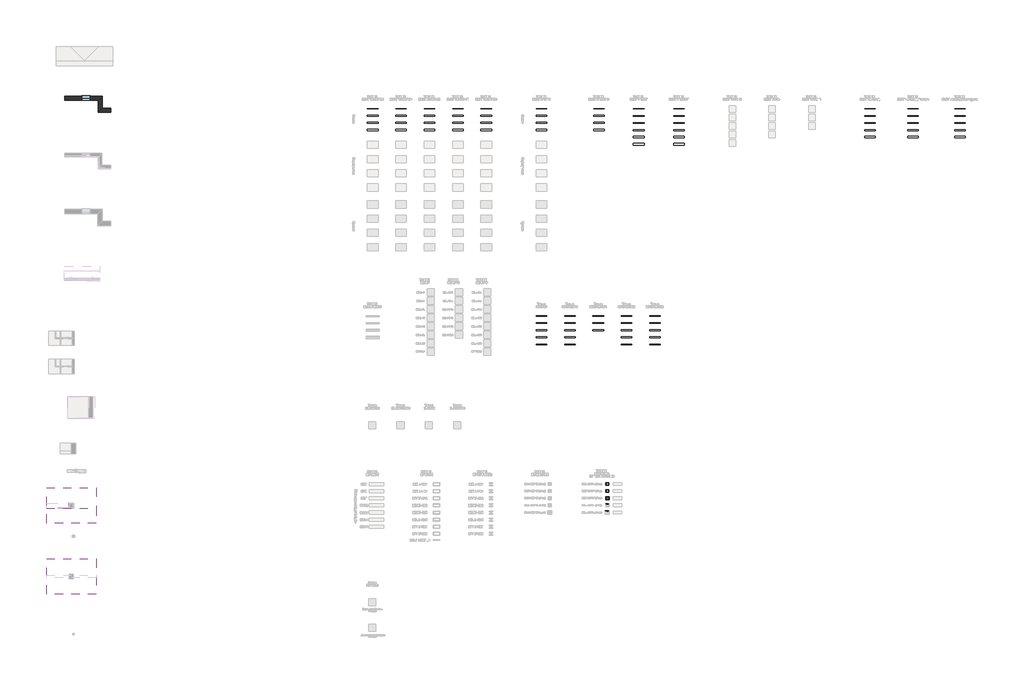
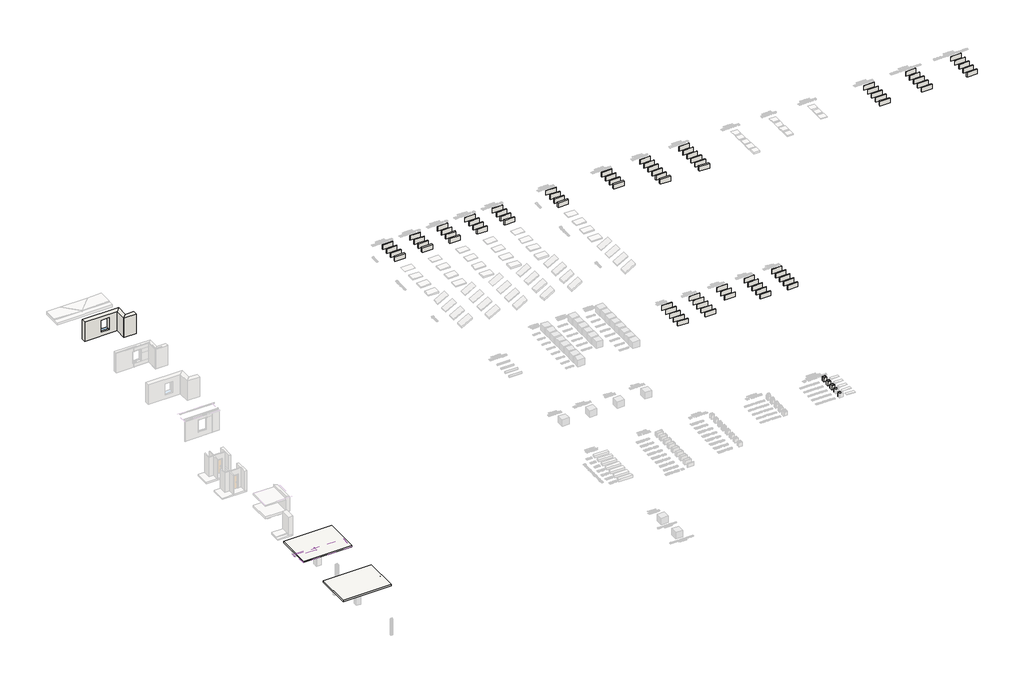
# One storey, part 4 of 35: 95 walls, 2 coverings, 2 slabs, 1 window.
"""IFC4 building model written with IfcOpenShell, lengths in millimetres."""

import ifcopenshell
import ifcopenshell.guid

model = None  # the IFC model being written
_history = None  # IfcOwnerHistory: only IFC2X3 demands one
_inside = {}  # id of a spatial element -> (the spatial element, [elements in it])
_under = {}  # id of a project, library or spatial element -> (it, [spatial elements below it])
_declared = {}  # id of a project -> (the project, [libraries it declares])
_typed = {}  # id of a type object -> (the type object, [elements of that type])
_made_of = {}  # id of a material, layer set ... -> (it, [elements and type objects made of it])


def new_model(schema):
    """Start an empty IFC model of exactly this schema.

    Asked for "IFC4X3", IfcOpenShell would pick the latest addendum, in which some entities
    have other attributes; the version numbers below select the first issue.
    IFC2X3 requires an IfcOwnerHistory on every rooted entity: one is made here for all.
    """
    global model, _history
    if schema == "IFC4X3":
        model = ifcopenshell.file(schema_version=(4, 3, 0, 0))
    else:
        model = ifcopenshell.file(schema=schema)
    _inside.clear()
    _under.clear()
    _declared.clear()
    _typed.clear()
    _made_of.clear()
    _history = None
    if model.schema == "IFC2X3":
        org = make("IfcOrganization", Name="unknown")
        user = make(
            "IfcPersonAndOrganization",
            ThePerson=make("IfcPerson", FamilyName="unknown"),
            TheOrganization=org,
        )
        app = make(
            "IfcApplication",
            ApplicationDeveloper=org,
            Version="unknown",
            ApplicationFullName="unknown",
            ApplicationIdentifier="unknown",
        )
        _history = make(
            "IfcOwnerHistory",
            OwningUser=user,
            OwningApplication=app,
            ChangeAction="ADDED",
            CreationDate=0,
        )
    return model


def make(cls, **values):
    """One entity of the class cls with the attributes given. An attribute that is None is left unset."""
    return model.create_entity(
        cls, **{name: value for name, value in values.items() if value is not None}
    )


def rooted(cls, **values):
    """An entity with a GlobalId (a new one), such as an element, a storey or a relation."""
    return make(cls, GlobalId=ifcopenshell.guid.new(), OwnerHistory=_history, **values)


def si_unit(unit_type, name, prefix=None):
    """IfcSIUnit, for example si_unit("LENGTHUNIT", "METRE", prefix="MILLI")."""
    return make("IfcSIUnit", UnitType=unit_type, Prefix=prefix, Name=name)


def assignment(units):
    """IfcUnitAssignment: the units of a project."""
    return None if units is None else make("IfcUnitAssignment", Units=units)


def point(xyz):
    """IfcCartesianPoint."""
    return None if xyz is None else make("IfcCartesianPoint", Coordinates=xyz)


def direction(xyz):
    """IfcDirection."""
    return None if xyz is None else make("IfcDirection", DirectionRatios=xyz)


def frame(location, z_axis=None, x_axis=None):
    """IfcAxis2Placement3D, a coordinate frame: its origin and axes. An axis left out is left unset."""
    return make(
        "IfcAxis2Placement3D",
        Location=point(location),
        Axis=direction(z_axis),
        RefDirection=direction(x_axis),
    )


def origin():
    """The frame at (0, 0, 0) with its axes left unset."""
    return frame((0.0, 0.0, 0.0))


def origin_with_axes():
    """The frame at (0, 0, 0) with the z axis (0, 0, 1) and the x axis (1, 0, 0) written out."""
    return frame((0.0, 0.0, 0.0), z_axis=(0.0, 0.0, 1.0), x_axis=(1.0, 0.0, 0.0))


def place(relative_to, where):
    """IfcLocalPlacement: puts the frame where relative to a parent placement (None: the world)."""
    return make(
        "IfcLocalPlacement", PlacementRelTo=relative_to, RelativePlacement=where
    )


def context(
    kind, dimensions, precision=None, world=None, true_north=None, identifier=None
):
    """IfcGeometricRepresentationContext, for example the 3D "Model" context."""
    return make(
        "IfcGeometricRepresentationContext",
        ContextIdentifier=identifier,
        ContextType=kind,
        CoordinateSpaceDimension=dimensions,
        Precision=precision,
        WorldCoordinateSystem=world,
        TrueNorth=true_north,
    )


def project(units=None, contexts=None):
    """IfcProject with its units and contexts."""
    return rooted(
        "IfcProject",
        Name="project",
        RepresentationContexts=contexts,
        UnitsInContext=assignment(units),
    )


def spatial(cls, under=None, at=None, **own):
    """A site, building, storey or space (cls), placed at a placement, below another one or the project."""
    s = rooted(cls, ObjectPlacement=at, **own)
    if under is not None:
        _under.setdefault(under.id(), (under, []))[1].append(s)
    return s


def polyline(points):
    """IfcPolyline through the points."""
    return make("IfcPolyline", Points=[point(p) for p in points])


def outline(outer, holes=None, kind="AREA"):
    """IfcArbitraryClosedProfileDef: a profile drawn as a closed curve; with holes, ...WithVoids."""
    if holes is None:
        return make("IfcArbitraryClosedProfileDef", ProfileType=kind, OuterCurve=outer)
    return make(
        "IfcArbitraryProfileDefWithVoids",
        ProfileType=kind,
        OuterCurve=outer,
        InnerCurves=holes,
    )


def extrude(swept, where, along, depth):
    """IfcExtrudedAreaSolid: the profile swept, set in the frame where, extruded along a direction by depth."""
    return make(
        "IfcExtrudedAreaSolid",
        SweptArea=swept,
        Position=where,
        ExtrudedDirection=direction(along),
        Depth=depth,
    )


def faces_of(points, faces, orient=None, outer=None):
    """IfcFace entities. A face is a list of loops; a loop is a list of indices into points, from 0.

    orient and outer hold one flag for each loop. By default every Orientation is true, the
    first loop of a face is its IfcFaceOuterBound and the others are IfcFaceBound.
    """
    made = []
    for i, loops in enumerate(faces):
        bounds = []
        for j, loop in enumerate(loops):
            is_outer = j == 0 if outer is None else outer[i][j]
            bounds.append(
                make(
                    "IfcFaceOuterBound" if is_outer else "IfcFaceBound",
                    Bound=make("IfcPolyLoop", Polygon=[points[k] for k in loop]),
                    Orientation=True if orient is None else orient[i][j],
                )
            )
        made.append(make("IfcFace", Bounds=bounds))
    return made


def faceted_brep(points, faces, orient=None, outer=None, voids=None):
    """IfcFacetedBrep: a solid bounded by flat faces; with voids (closed shells), ...WithVoids."""
    shared = [point(p) for p in points]
    hull = make("IfcClosedShell", CfsFaces=faces_of(shared, faces, orient, outer))
    if voids is None:
        return make("IfcFacetedBrep", Outer=hull)
    return make(
        "IfcFacetedBrepWithVoids",
        Outer=hull,
        Voids=[
            make(cls, CfsFaces=faces_of(shared, fs, o, b)) for cls, fs, o, b in voids
        ],
    )


def shape(context_of_items, identifier, shape_type, items):
    """IfcShapeRepresentation: the items that make up one representation, for example the "Body"."""
    return make(
        "IfcShapeRepresentation",
        ContextOfItems=context_of_items,
        RepresentationIdentifier=identifier,
        RepresentationType=shape_type,
        Items=items,
    )


def source(mapping_origin, context_of_items, identifier, shape_type, items):
    """IfcRepresentationMap: a shape defined once, which mapped items show again and again."""
    return make(
        "IfcRepresentationMap",
        MappingOrigin=mapping_origin,
        MappedRepresentation=shape(context_of_items, identifier, shape_type, items),
    )


def transform(
    local_origin,
    x_axis=None,
    y_axis=None,
    z_axis=None,
    scale=None,
    scale2=None,
    scale3=None,
    uniform=True,
):
    """IfcCartesianTransformationOperator3D, or its non-uniform kind. x_axis, y_axis, z_axis: its Axis1, 2, 3."""
    if uniform:
        return make(
            "IfcCartesianTransformationOperator3D",
            Axis1=direction(x_axis),
            Axis2=direction(y_axis),
            LocalOrigin=point(local_origin),
            Scale=scale,
            Axis3=direction(z_axis),
        )
    return make(
        "IfcCartesianTransformationOperator3DnonUniform",
        Axis1=direction(x_axis),
        Axis2=direction(y_axis),
        LocalOrigin=point(local_origin),
        Scale=scale,
        Axis3=direction(z_axis),
        Scale2=scale2,
        Scale3=scale3,
    )


def mapped(mapping_source, mapping_target):
    """IfcMappedItem: shows the shape of a source again, moved by a transform."""
    return make(
        "IfcMappedItem", MappingSource=mapping_source, MappingTarget=mapping_target
    )


def made_of(thing, what):
    """Note that an element or type object is made of a material, layer set ...; save() writes the relation."""
    if what is not None:
        _made_of.setdefault(what.id(), (what, []))[1].append(thing)
    return thing


def element(
    cls,
    number,
    at=None,
    inside=None,
    cuts=None,
    type_object=None,
    material=None,
    context=None,
    identifier="Body",
    shape_type=None,
    held_by="IfcProductDefinitionShape",
    body=None,
    shapes=None,
    **own,
):
    """One element of the class cls, such as IfcWall. Its Tag is "e" and its number.

    at: its placement. inside: the storey or other place that contains it. cuts: it is an
    opening in that element (IfcRelVoidsElement). A single representation is given by context,
    identifier, shape_type and body (its items); several are given by shapes. held_by: the class
    of the entity that holds the representations. save() writes the other relations.
    """
    e = rooted(cls, Tag="e%d" % number, ObjectPlacement=at, **own)
    if body is not None:
        shapes = [shape(context, identifier, shape_type, body)]
    if shapes is not None:
        e.Representation = make(held_by, Representations=shapes)
    if inside is not None:
        _inside.setdefault(inside.id(), (inside, []))[1].append(e)
    if cuts is not None:
        rooted(
            "IfcRelVoidsElement", RelatingBuildingElement=cuts, RelatedOpeningElement=e
        )
    if type_object is not None:
        _typed.setdefault(type_object.id(), (type_object, []))[1].append(e)
    return made_of(e, material)


def aggregate(whole, parts):
    """IfcRelAggregates: a whole, such as a stair, and the parts it consists of."""
    return rooted("IfcRelAggregates", RelatingObject=whole, RelatedObjects=parts)


def save(model, path):
    """Write the relations noted so far, then the file.

    IfcRelAggregates (storeys below a building ...), IfcRelContainedInSpatialStructure (elements
    in a storey), IfcRelDefinesByType, IfcRelAssociatesMaterial and IfcRelDeclares: one each for
    every whole, place, type object, material and project.
    """
    for whole, parts in _under.values():
        aggregate(whole, parts)
    for where, things in _inside.values():
        rooted(
            "IfcRelContainedInSpatialStructure",
            RelatedElements=things,
            RelatingStructure=where,
        )
    for kind, things in _typed.values():
        rooted("IfcRelDefinesByType", RelatedObjects=things, RelatingType=kind)
    for what, things in _made_of.values():
        rooted("IfcRelAssociatesMaterial", RelatedObjects=things, RelatingMaterial=what)
    for by, libraries in _declared.values():
        rooted("IfcRelDeclares", RelatingContext=by, RelatedDefinitions=libraries)
    model.write(path)


def window_087112bc(model_context):
    return source(origin(), model_context, "Body", "SweptSolid", [
        extrude(outline(polyline([(605.0, 0.0), (605.0, -380.0), (-605.0, -380.0), (-605.0, 0.0), (605.0, 0.0)])), origin_with_axes(), (0.0, 0.0, 1.0), 20.0),
    ])


model = new_model("IFC4")

# Units and contexts
model_context = context("Model", 3, world=origin())
ifc_project = project(units=[si_unit("LENGTHUNIT", "METRE", prefix="MILLI")], contexts=[model_context])

# Site, building, storey
site = spatial("IfcSite", under=ifc_project)
building = spatial("IfcBuilding", under=site)
storey = spatial("IfcBuildingStorey", under=building, Name="Этаж 01", Elevation=0.0)

# Coverings
placement = place(None, origin())
element("IfcCovering", 1, ObjectType="Тизол EURO-ЛИТ 80 (50мм)", at=placement, inside=storey, context=model_context, shape_type="Brep", body=[
    faceted_brep([(-44000.5104743, -52520.4666904, 2600.0), (-40850.5104743, -52520.4666904, 2600.0), (-40850.5104743, -52470.4666904, 2600.0), (-40850.5104743, -51870.4666904, 2600.0), (-40850.5104743, -51820.4666904, 2600.0), (-44000.5104743, -51820.4666904, 2600.0), (-44000.5104743, -51870.4666904, 2600.0), (-44000.5104743, -52470.4666904, 2600.0), (-44000.5104743, -52520.4666904, 2550.0), (-44000.5104743, -51820.4666904, 2550.0), (-40850.5104743, -51820.4666904, 2550.0), (-40850.5104743, -52520.4666904, 2550.0)], [[[0, 1, 2, 3, 4, 5, 6, 7]], [[8, 9, 10, 11]], [[1, 0, 8, 11]], [[4, 3, 2, 1, 11, 10]], [[5, 4, 10, 9]], [[0, 7, 6, 5, 9, 8]]]),
    faceted_brep([(-37000.5104743, -52520.4666904, 2600.0), (-37000.5104743, -52470.4666904, 2600.0), (-37000.5104743, -51870.4666904, 2600.0), (-37000.5104743, -51820.4666904, 2600.0), (-40150.5104743, -51820.4666904, 2600.0), (-40150.5104743, -51870.4666904, 2600.0), (-40150.5104743, -52470.4666904, 2600.0), (-40150.5104743, -52520.4666904, 2600.0), (-37000.5104743, -52520.4666904, 2550.0), (-40150.5104743, -52520.4666904, 2550.0), (-40150.5104743, -51820.4666904, 2550.0), (-37000.5104743, -51820.4666904, 2550.0)], [[[0, 1, 2, 3, 4, 5, 6, 7]], [[8, 9, 10, 11]], [[3, 2, 1, 0, 8, 11]], [[4, 3, 11, 10]], [[7, 6, 5, 4, 10, 9]], [[0, 7, 9, 8]]]),
])
element("IfcCovering", 2, ObjectType="Тизол EURO-ЛИТ 80 (50мм)", at=placement, inside=storey, context=model_context, shape_type="SweptSolid", body=[
    extrude(outline(polyline([(-44000.5104743, -52520.4666904), (-37000.5104743, -52520.4666904), (-37000.5104743, -54670.4666904), (-44000.5104743, -54670.4666904), (-44000.5104743, -52520.4666904)])), frame((0.0, 0.0, 2950.0), z_axis=(0.0, 0.0, 1.0), x_axis=(1.0, 0.0, 0.0)), (0.0, 0.0, 1.0), 50.0),
    extrude(outline(polyline([(-37000.5104743, -51820.4666904), (-44000.5104743, -51820.4666904), (-44000.5104743, -49670.4666904), (-37000.5104743, -49670.4666904), (-37000.5104743, -51820.4666904)])), frame((0.0, 0.0, 2950.0), z_axis=(0.0, 0.0, 1.0), x_axis=(1.0, 0.0, 0.0)), (0.0, 0.0, 1.0), 50.0),
])

# Slabs
element("IfcSlab", 3, ObjectType="ADSK_Перекрытие_Плита_Бетон_220", at=placement, inside=storey, context=model_context, shape_type="SweptSolid", body=[
    extrude(outline(polyline([(-37000.5104743, -49670.4666904), (-37000.5104743, -54670.4666904), (-44000.5104743, -54670.4666904), (-44000.5104743, -49670.4666904), (-37000.5104743, -49670.4666904)])), frame((0.0, 0.0, 3000.0), z_axis=(0.0, 0.0, 1.0), x_axis=(1.0, 0.0, 0.0)), (0.0, 0.0, 1.0), 220.0),
])
element("IfcSlab", 4, ObjectType="ADSK_Перекрытие_Плита_Бетон_220", at=placement, inside=storey, context=model_context, shape_type="SweptSolid", body=[
    extrude(outline(polyline([(-37000.5104743, -59670.4666904), (-37000.5104743, -64670.4666904), (-44000.5104743, -64670.4666904), (-44000.5104743, -59670.4666904), (-37000.5104743, -59670.4666904)])), frame((0.0, 0.0, 3000.0), z_axis=(0.0, 0.0, 1.0), x_axis=(1.0, 0.0, 0.0)), (0.0, 0.0, 1.0), 220.0),
])

# Walls
element("IfcWall", 5, ObjectType="Тизол EURO-ЛАЙТ 25 (50мм)", at=placement, inside=storey, context=model_context, shape_type="SweptSolid", body=[
    extrude(outline(polyline([(2738.9564212, 3747.5486101), (1238.9564212, 3747.5486101), (1238.9564212, 3797.5486101), (2738.9564212, 3797.5486101), (2738.9564212, 3747.5486101)])), origin_with_axes(), (0.0, 0.0, 1.0), 700.0),
])
element("IfcWall", 6, ObjectType="Тизол EURO-ЛАЙТ 25 (100мм)", at=placement, inside=storey, context=model_context, shape_type="SweptSolid", body=[
    extrude(outline(polyline([(2738.9564212, 2722.5486101), (1238.9564212, 2722.5486101), (1238.9564212, 2822.5486101), (2738.9564212, 2822.5486101), (2738.9564212, 2722.5486101)])), origin_with_axes(), (0.0, 0.0, 1.0), 700.0),
])
element("IfcWall", 7, ObjectType="Тизол EURO-ЛАЙТ 25 (150мм)", at=placement, inside=storey, context=model_context, shape_type="SweptSolid", body=[
    extrude(outline(polyline([(2738.9564212, 1697.5486101), (1238.9564212, 1697.5486101), (1238.9564212, 1847.5486101), (2738.9564212, 1847.5486101), (2738.9564212, 1697.5486101)])), origin_with_axes(), (0.0, 0.0, 1.0), 700.0),
])
element("IfcWall", 8, ObjectType="Тизол EURO-ЛАЙТ 25 (200мм)", at=placement, inside=storey, context=model_context, shape_type="SweptSolid", body=[
    extrude(outline(polyline([(2738.9564212, 672.5486101), (1238.9564212, 672.5486101), (1238.9564212, 872.5486101), (2738.9564212, 872.5486101), (2738.9564212, 672.5486101)])), origin_with_axes(), (0.0, 0.0, 1.0), 700.0),
])
element("IfcWall", 9, ObjectType="Тизол EURO-ЛАЙТ 35 (50мм)", at=placement, inside=storey, context=model_context, shape_type="SweptSolid", body=[
    extrude(outline(polyline([(10738.9564212, 3747.5486101), (9238.9564212, 3747.5486101), (9238.9564212, 3797.5486101), (10738.9564212, 3797.5486101), (10738.9564212, 3747.5486101)])), origin_with_axes(), (0.0, 0.0, 1.0), 700.0),
])
element("IfcWall", 10, ObjectType="Тизол EURO-ЛАЙТ 35 (100мм)", at=placement, inside=storey, context=model_context, shape_type="SweptSolid", body=[
    extrude(outline(polyline([(10738.9564212, 2722.5486101), (9238.9564212, 2722.5486101), (9238.9564212, 2822.5486101), (10738.9564212, 2822.5486101), (10738.9564212, 2722.5486101)])), origin_with_axes(), (0.0, 0.0, 1.0), 700.0),
])
element("IfcWall", 11, ObjectType="Тизол EURO-ЛАЙТ 35 (150мм)", at=placement, inside=storey, context=model_context, shape_type="SweptSolid", body=[
    extrude(outline(polyline([(10738.9564212, 1697.5486101), (9238.9564212, 1697.5486101), (9238.9564212, 1847.5486101), (10738.9564212, 1847.5486101), (10738.9564212, 1697.5486101)])), origin_with_axes(), (0.0, 0.0, 1.0), 700.0),
])
element("IfcWall", 12, ObjectType="Тизол EURO-ЛАЙТ 35 (200мм)", at=placement, inside=storey, context=model_context, shape_type="SweptSolid", body=[
    extrude(outline(polyline([(10738.9564212, 672.5486101), (9238.9564212, 672.5486101), (9238.9564212, 872.5486101), (10738.9564212, 872.5486101), (10738.9564212, 672.5486101)])), origin_with_axes(), (0.0, 0.0, 1.0), 700.0),
])
element("IfcWall", 13, ObjectType="Тизол EURO-ЛАЙТ 40 (50мм)", at=placement, inside=storey, context=model_context, shape_type="SweptSolid", body=[
    extrude(outline(polyline([(14738.9564212, 3747.5486101), (13238.9564212, 3747.5486101), (13238.9564212, 3797.5486101), (14738.9564212, 3797.5486101), (14738.9564212, 3747.5486101)])), origin_with_axes(), (0.0, 0.0, 1.0), 700.0),
])
element("IfcWall", 14, ObjectType="Тизол EURO-ЛАЙТ 40 (100мм)", at=placement, inside=storey, context=model_context, shape_type="SweptSolid", body=[
    extrude(outline(polyline([(14738.9564212, 2722.5486101), (13238.9564212, 2722.5486101), (13238.9564212, 2822.5486101), (14738.9564212, 2822.5486101), (14738.9564212, 2722.5486101)])), origin_with_axes(), (0.0, 0.0, 1.0), 700.0),
])
element("IfcWall", 15, ObjectType="Тизол EURO-ЛАЙТ 40 (150мм)", at=placement, inside=storey, context=model_context, shape_type="SweptSolid", body=[
    extrude(outline(polyline([(14738.9564212, 1697.5486101), (13238.9564212, 1697.5486101), (13238.9564212, 1847.5486101), (14738.9564212, 1847.5486101), (14738.9564212, 1697.5486101)])), origin_with_axes(), (0.0, 0.0, 1.0), 700.0),
])
element("IfcWall", 16, ObjectType="Тизол EURO-ЛАЙТ 40 (200мм)", at=placement, inside=storey, context=model_context, shape_type="SweptSolid", body=[
    extrude(outline(polyline([(14738.9564212, 672.5486101), (13238.9564212, 672.5486101), (13238.9564212, 872.5486101), (14738.9564212, 872.5486101), (14738.9564212, 672.5486101)])), origin_with_axes(), (0.0, 0.0, 1.0), 700.0),
])
element("IfcWall", 17, ObjectType="Тизол EURO-ЛАЙТ 50 (50мм)", at=placement, inside=storey, context=model_context, shape_type="SweptSolid", body=[
    extrude(outline(polyline([(18738.9564212, 3747.5486101), (17238.9564212, 3747.5486101), (17238.9564212, 3797.5486101), (18738.9564212, 3797.5486101), (18738.9564212, 3747.5486101)])), origin_with_axes(), (0.0, 0.0, 1.0), 700.0),
])
element("IfcWall", 18, ObjectType="Тизол EURO-ЛАЙТ 50 (100мм)", at=placement, inside=storey, context=model_context, shape_type="SweptSolid", body=[
    extrude(outline(polyline([(18738.9564212, 2722.5486101), (17238.9564212, 2722.5486101), (17238.9564212, 2822.5486101), (18738.9564212, 2822.5486101), (18738.9564212, 2722.5486101)])), origin_with_axes(), (0.0, 0.0, 1.0), 700.0),
])
element("IfcWall", 19, ObjectType="Тизол EURO-ЛАЙТ 50 (150мм)", at=placement, inside=storey, context=model_context, shape_type="SweptSolid", body=[
    extrude(outline(polyline([(18738.9564212, 1697.5486101), (17238.9564212, 1697.5486101), (17238.9564212, 1847.5486101), (18738.9564212, 1847.5486101), (18738.9564212, 1697.5486101)])), origin_with_axes(), (0.0, 0.0, 1.0), 700.0),
])
element("IfcWall", 20, ObjectType="Тизол EURO-ЛАЙТ 50 (200мм)", at=placement, inside=storey, context=model_context, shape_type="SweptSolid", body=[
    extrude(outline(polyline([(18738.9564212, 672.5486101), (17238.9564212, 672.5486101), (17238.9564212, 872.5486101), (18738.9564212, 872.5486101), (18738.9564212, 672.5486101)])), origin_with_axes(), (0.0, 0.0, 1.0), 700.0),
])
element("IfcWall", 21, ObjectType="Тизол EURO-ЛАЙТ 30 (50мм)", at=placement, inside=storey, context=model_context, shape_type="SweptSolid", body=[
    extrude(outline(polyline([(6738.9564212, 3747.5486101), (5238.9564212, 3747.5486101), (5238.9564212, 3797.5486101), (6738.9564212, 3797.5486101), (6738.9564212, 3747.5486101)])), origin_with_axes(), (0.0, 0.0, 1.0), 700.0),
])
element("IfcWall", 22, ObjectType="Тизол EURO-ЛАЙТ 30 (100мм)", at=placement, inside=storey, context=model_context, shape_type="SweptSolid", body=[
    extrude(outline(polyline([(6738.9564212, 2722.5486101), (5238.9564212, 2722.5486101), (5238.9564212, 2822.5486101), (6738.9564212, 2822.5486101), (6738.9564212, 2722.5486101)])), origin_with_axes(), (0.0, 0.0, 1.0), 700.0),
])
element("IfcWall", 23, ObjectType="Тизол EURO-ЛАЙТ 30 (150мм)", at=placement, inside=storey, context=model_context, shape_type="SweptSolid", body=[
    extrude(outline(polyline([(6738.9564212, 1697.5486101), (5238.9564212, 1697.5486101), (5238.9564212, 1847.5486101), (6738.9564212, 1847.5486101), (6738.9564212, 1697.5486101)])), origin_with_axes(), (0.0, 0.0, 1.0), 700.0),
])
element("IfcWall", 24, ObjectType="Тизол EURO-ЛАЙТ 30 (200мм)", at=placement, inside=storey, context=model_context, shape_type="SweptSolid", body=[
    extrude(outline(polyline([(6738.9564212, 672.5486101), (5238.9564212, 672.5486101), (5238.9564212, 872.5486101), (6738.9564212, 872.5486101), (6738.9564212, 672.5486101)])), origin_with_axes(), (0.0, 0.0, 1.0), 700.0),
])
element("IfcWall", 25, ObjectType="Тизол EURO-БЛОК (50мм)", at=placement, inside=storey, context=model_context, shape_type="SweptSolid", body=[
    extrude(outline(polyline([(26538.9564212, 3747.5486101), (25038.9564212, 3747.5486101), (25038.9564212, 3797.5486101), (26538.9564212, 3797.5486101), (26538.9564212, 3747.5486101)])), origin_with_axes(), (0.0, 0.0, 1.0), 700.0),
])
element("IfcWall", 26, ObjectType="Тизол EURO-БЛОК (100мм)", at=placement, inside=storey, context=model_context, shape_type="SweptSolid", body=[
    extrude(outline(polyline([(26538.9564212, 2722.5486101), (25038.9564212, 2722.5486101), (25038.9564212, 2822.5486101), (26538.9564212, 2822.5486101), (26538.9564212, 2722.5486101)])), origin_with_axes(), (0.0, 0.0, 1.0), 700.0),
])
element("IfcWall", 27, ObjectType="Тизол EURO-БЛОК (150мм)", at=placement, inside=storey, context=model_context, shape_type="SweptSolid", body=[
    extrude(outline(polyline([(26538.9564212, 1697.5486101), (25038.9564212, 1697.5486101), (25038.9564212, 1847.5486101), (26538.9564212, 1847.5486101), (26538.9564212, 1697.5486101)])), origin_with_axes(), (0.0, 0.0, 1.0), 700.0),
])
element("IfcWall", 28, ObjectType="Тизол EURO-БЛОК (200мм)", at=placement, inside=storey, context=model_context, shape_type="SweptSolid", body=[
    extrude(outline(polyline([(26538.9564212, 672.5486101), (25038.9564212, 672.5486101), (25038.9564212, 872.5486101), (26538.9564212, 872.5486101), (26538.9564212, 672.5486101)])), origin_with_axes(), (0.0, 0.0, 1.0), 700.0),
])
element("IfcWall", 29, ObjectType="Тизол EURO-ВЕНТ Н (50мм)", at=placement, inside=storey, context=model_context, shape_type="SweptSolid", body=[
    extrude(outline(polyline([(34638.9564212, 3747.5486101), (33138.9564212, 3747.5486101), (33138.9564212, 3797.5486101), (34638.9564212, 3797.5486101), (34638.9564212, 3747.5486101)])), origin_with_axes(), (0.0, 0.0, 1.0), 700.0),
])
element("IfcWall", 30, ObjectType="Тизол EURO-ВЕНТ Н (100мм)", at=placement, inside=storey, context=model_context, shape_type="SweptSolid", body=[
    extrude(outline(polyline([(34638.9564212, 2722.5486101), (33138.9564212, 2722.5486101), (33138.9564212, 2822.5486101), (34638.9564212, 2822.5486101), (34638.9564212, 2722.5486101)])), origin_with_axes(), (0.0, 0.0, 1.0), 700.0),
])
element("IfcWall", 31, ObjectType="Тизол EURO-ВЕНТ Н (150мм)", at=placement, inside=storey, context=model_context, shape_type="SweptSolid", body=[
    extrude(outline(polyline([(34638.9564212, 1697.5486101), (33138.9564212, 1697.5486101), (33138.9564212, 1847.5486101), (34638.9564212, 1847.5486101), (34638.9564212, 1697.5486101)])), origin_with_axes(), (0.0, 0.0, 1.0), 700.0),
])
element("IfcWall", 32, ObjectType="Тизол EURO-ВЕНТ Н (200мм)", at=placement, inside=storey, context=model_context, shape_type="SweptSolid", body=[
    extrude(outline(polyline([(34638.9564212, 672.5486101), (33138.9564212, 672.5486101), (33138.9564212, 872.5486101), (34638.9564212, 872.5486101), (34638.9564212, 672.5486101)])), origin_with_axes(), (0.0, 0.0, 1.0), 700.0),
])
element("IfcWall", 33, ObjectType="Тизол EURO-ВЕНТ (40мм)", at=placement, inside=storey, context=model_context, shape_type="SweptSolid", body=[
    extrude(outline(polyline([(40238.9564212, 3752.5486101), (38738.9564212, 3752.5486101), (38738.9564212, 3792.5486101), (40238.9564212, 3792.5486101), (40238.9564212, 3752.5486101)])), origin_with_axes(), (0.0, 0.0, 1.0), 700.0),
])
element("IfcWall", 34, ObjectType="Тизол EURO-ВЕНТ (50мм)", at=placement, inside=storey, context=model_context, shape_type="SweptSolid", body=[
    extrude(outline(polyline([(40238.9564212, 2747.5486101), (38738.9564212, 2747.5486101), (38738.9564212, 2797.5486101), (40238.9564212, 2797.5486101), (40238.9564212, 2747.5486101)])), origin_with_axes(), (0.0, 0.0, 1.0), 700.0),
])
element("IfcWall", 35, ObjectType="Тизол EURO-ВЕНТ (100мм)", at=placement, inside=storey, context=model_context, shape_type="SweptSolid", body=[
    extrude(outline(polyline([(40238.9564212, 1722.5486101), (38738.9564212, 1722.5486101), (38738.9564212, 1822.5486101), (40238.9564212, 1822.5486101), (40238.9564212, 1722.5486101)])), origin_with_axes(), (0.0, 0.0, 1.0), 700.0),
])
element("IfcWall", 36, ObjectType="Тизол EURO-ВЕНТ (150мм)", at=placement, inside=storey, context=model_context, shape_type="SweptSolid", body=[
    extrude(outline(polyline([(40238.9564212, 697.5486101), (38738.9564212, 697.5486101), (38738.9564212, 847.5486101), (40238.9564212, 847.5486101), (40238.9564212, 697.5486101)])), origin_with_axes(), (0.0, 0.0, 1.0), 700.0),
])
element("IfcWall", 37, ObjectType="Тизол EURO-ВЕНТ (200мм)", at=placement, inside=storey, context=model_context, shape_type="SweptSolid", body=[
    extrude(outline(polyline([(40238.9564212, -327.4513899), (38738.9564212, -327.4513899), (38738.9564212, -127.4513899), (40238.9564212, -127.4513899), (40238.9564212, -327.4513899)])), origin_with_axes(), (0.0, 0.0, 1.0), 700.0),
])
element("IfcWall", 38, ObjectType="Тизол EURO-ВЕНТ (250мм)", at=placement, inside=storey, context=model_context, shape_type="SweptSolid", body=[
    extrude(outline(polyline([(40238.9564212, -1352.4513899), (38738.9564212, -1352.4513899), (38738.9564212, -1102.4513899), (40238.9564212, -1102.4513899), (40238.9564212, -1352.4513899)])), origin_with_axes(), (0.0, 0.0, 1.0), 700.0),
])
element("IfcWall", 39, ObjectType="Тизол EURO-ВЕНТ В (40мм)", at=placement, inside=storey, context=model_context, shape_type="SweptSolid", body=[
    extrude(outline(polyline([(45938.9564212, 3752.5486101), (44438.9564212, 3752.5486101), (44438.9564212, 3792.5486101), (45938.9564212, 3792.5486101), (45938.9564212, 3752.5486101)])), origin_with_axes(), (0.0, 0.0, 1.0), 700.0),
])
element("IfcWall", 40, ObjectType="Тизол EURO-ВЕНТ В (50мм)", at=placement, inside=storey, context=model_context, shape_type="SweptSolid", body=[
    extrude(outline(polyline([(45938.9564212, 2747.5486101), (44438.9564212, 2747.5486101), (44438.9564212, 2797.5486101), (45938.9564212, 2797.5486101), (45938.9564212, 2747.5486101)])), origin_with_axes(), (0.0, 0.0, 1.0), 700.0),
])
element("IfcWall", 41, ObjectType="Тизол EURO-ВЕНТ В (100мм)", at=placement, inside=storey, context=model_context, shape_type="SweptSolid", body=[
    extrude(outline(polyline([(45938.9564212, 1722.5486101), (44438.9564212, 1722.5486101), (44438.9564212, 1822.5486101), (45938.9564212, 1822.5486101), (45938.9564212, 1722.5486101)])), origin_with_axes(), (0.0, 0.0, 1.0), 700.0),
])
element("IfcWall", 42, ObjectType="Тизол EURO-ВЕНТ В (150мм)", at=placement, inside=storey, context=model_context, shape_type="SweptSolid", body=[
    extrude(outline(polyline([(45938.9564212, 697.5486101), (44438.9564212, 697.5486101), (44438.9564212, 847.5486101), (45938.9564212, 847.5486101), (45938.9564212, 697.5486101)])), origin_with_axes(), (0.0, 0.0, 1.0), 700.0),
])
element("IfcWall", 43, ObjectType="Тизол EURO-ВЕНТ В (200мм)", at=placement, inside=storey, context=model_context, shape_type="SweptSolid", body=[
    extrude(outline(polyline([(45938.9564212, -327.4513899), (44438.9564212, -327.4513899), (44438.9564212, -127.4513899), (45938.9564212, -127.4513899), (45938.9564212, -327.4513899)])), origin_with_axes(), (0.0, 0.0, 1.0), 700.0),
])
element("IfcWall", 44, ObjectType="Тизол EURO-ВЕНТ В (250мм)", at=placement, inside=storey, context=model_context, shape_type="SweptSolid", body=[
    extrude(outline(polyline([(45938.9564212, -1352.4513899), (44438.9564212, -1352.4513899), (44438.9564212, -1102.4513899), (45938.9564212, -1102.4513899), (45938.9564212, -1352.4513899)])), origin_with_axes(), (0.0, 0.0, 1.0), 700.0),
])
element("IfcWall", 45, ObjectType="Тизол EURO-ФАСАД (40мм)", at=placement, inside=storey, context=model_context, shape_type="SweptSolid", body=[
    extrude(outline(polyline([(72838.9564212, 3752.5486101), (71338.9564212, 3752.5486101), (71338.9564212, 3792.5486101), (72838.9564212, 3792.5486101), (72838.9564212, 3752.5486101)])), origin_with_axes(), (0.0, 0.0, 1.0), 700.0),
])
element("IfcWall", 46, ObjectType="Тизол EURO-ФАСАД (50мм)", at=placement, inside=storey, context=model_context, shape_type="SweptSolid", body=[
    extrude(outline(polyline([(72838.9564212, 2747.5486101), (71338.9564212, 2747.5486101), (71338.9564212, 2797.5486101), (72838.9564212, 2797.5486101), (72838.9564212, 2747.5486101)])), origin_with_axes(), (0.0, 0.0, 1.0), 700.0),
])
element("IfcWall", 47, ObjectType="Тизол EURO-ФАСАД (100мм)", at=placement, inside=storey, context=model_context, shape_type="SweptSolid", body=[
    extrude(outline(polyline([(72838.9564212, 1722.5486101), (71338.9564212, 1722.5486101), (71338.9564212, 1822.5486101), (72838.9564212, 1822.5486101), (72838.9564212, 1722.5486101)])), origin_with_axes(), (0.0, 0.0, 1.0), 700.0),
])
element("IfcWall", 48, ObjectType="Тизол EURO-ФАСАД (150мм)", at=placement, inside=storey, context=model_context, shape_type="SweptSolid", body=[
    extrude(outline(polyline([(72838.9564212, 697.5486101), (71338.9564212, 697.5486101), (71338.9564212, 847.5486101), (72838.9564212, 847.5486101), (72838.9564212, 697.5486101)])), origin_with_axes(), (0.0, 0.0, 1.0), 700.0),
])
element("IfcWall", 49, ObjectType="Тизол EURO-ФАСАД (200мм)", at=placement, inside=storey, context=model_context, shape_type="SweptSolid", body=[
    extrude(outline(polyline([(72838.9564212, -327.4513899), (71338.9564212, -327.4513899), (71338.9564212, -127.4513899), (72838.9564212, -127.4513899), (72838.9564212, -327.4513899)])), origin_with_axes(), (0.0, 0.0, 1.0), 700.0),
])
element("IfcWall", 50, ObjectType="Тизол EURO-ФАСАД Оптима (40мм)", at=placement, inside=storey, context=model_context, shape_type="SweptSolid", body=[
    extrude(outline(polyline([(78938.9564212, 3752.5486101), (77438.9564212, 3752.5486101), (77438.9564212, 3792.5486101), (78938.9564212, 3792.5486101), (78938.9564212, 3752.5486101)])), origin_with_axes(), (0.0, 0.0, 1.0), 700.0),
])
element("IfcWall", 51, ObjectType="Тизол EURO-ФАСАД Оптима (50мм)", at=placement, inside=storey, context=model_context, shape_type="SweptSolid", body=[
    extrude(outline(polyline([(78938.9564212, 2747.5486101), (77438.9564212, 2747.5486101), (77438.9564212, 2797.5486101), (78938.9564212, 2797.5486101), (78938.9564212, 2747.5486101)])), origin_with_axes(), (0.0, 0.0, 1.0), 700.0),
])
element("IfcWall", 52, ObjectType="Тизол EURO-ФАСАД Оптима (100мм)", at=placement, inside=storey, context=model_context, shape_type="SweptSolid", body=[
    extrude(outline(polyline([(78938.9564212, 1722.5486101), (77438.9564212, 1722.5486101), (77438.9564212, 1822.5486101), (78938.9564212, 1822.5486101), (78938.9564212, 1722.5486101)])), origin_with_axes(), (0.0, 0.0, 1.0), 700.0),
])
element("IfcWall", 53, ObjectType="Тизол EURO-ФАСАД Оптима (150мм)", at=placement, inside=storey, context=model_context, shape_type="SweptSolid", body=[
    extrude(outline(polyline([(78938.9564212, 697.5486101), (77438.9564212, 697.5486101), (77438.9564212, 847.5486101), (78938.9564212, 847.5486101), (78938.9564212, 697.5486101)])), origin_with_axes(), (0.0, 0.0, 1.0), 700.0),
])
element("IfcWall", 54, ObjectType="Тизол EURO-ФАСАД Оптима (200мм)", at=placement, inside=storey, context=model_context, shape_type="SweptSolid", body=[
    extrude(outline(polyline([(78938.9564212, -327.4513899), (77438.9564212, -327.4513899), (77438.9564212, -127.4513899), (78938.9564212, -127.4513899), (78938.9564212, -327.4513899)])), origin_with_axes(), (0.0, 0.0, 1.0), 700.0),
])
element("IfcWall", 55, ObjectType="Тизол EURO-ФАСАД Универсал (40мм)", at=placement, inside=storey, context=model_context, shape_type="SweptSolid", body=[
    extrude(outline(polyline([(85538.9564212, 3752.5486101), (84038.9564212, 3752.5486101), (84038.9564212, 3792.5486101), (85538.9564212, 3792.5486101), (85538.9564212, 3752.5486101)])), origin_with_axes(), (0.0, 0.0, 1.0), 700.0),
])
element("IfcWall", 56, ObjectType="Тизол EURO-ФАСАД Универсал (50мм)", at=placement, inside=storey, context=model_context, shape_type="SweptSolid", body=[
    extrude(outline(polyline([(85538.9564212, 2747.5486101), (84038.9564212, 2747.5486101), (84038.9564212, 2797.5486101), (85538.9564212, 2797.5486101), (85538.9564212, 2747.5486101)])), origin_with_axes(), (0.0, 0.0, 1.0), 700.0),
])
element("IfcWall", 57, ObjectType="Тизол EURO-ФАСАД Универсал (100мм)", at=placement, inside=storey, context=model_context, shape_type="SweptSolid", body=[
    extrude(outline(polyline([(85538.9564212, 1722.5486101), (84038.9564212, 1722.5486101), (84038.9564212, 1822.5486101), (85538.9564212, 1822.5486101), (85538.9564212, 1722.5486101)])), origin_with_axes(), (0.0, 0.0, 1.0), 700.0),
])
element("IfcWall", 58, ObjectType="Тизол EURO-ФАСАД Универсал (150мм)", at=placement, inside=storey, context=model_context, shape_type="SweptSolid", body=[
    extrude(outline(polyline([(85538.9564212, 697.5486101), (84038.9564212, 697.5486101), (84038.9564212, 847.5486101), (85538.9564212, 847.5486101), (85538.9564212, 697.5486101)])), origin_with_axes(), (0.0, 0.0, 1.0), 700.0),
])
element("IfcWall", 59, ObjectType="Тизол EURO-ФАСАД Универсал (200мм)", at=placement, inside=storey, context=model_context, shape_type="SweptSolid", body=[
    extrude(outline(polyline([(85538.9564212, -327.4513899), (84038.9564212, -327.4513899), (84038.9564212, -127.4513899), (85538.9564212, -127.4513899), (85538.9564212, -327.4513899)])), origin_with_axes(), (0.0, 0.0, 1.0), 700.0),
])
element("IfcWall", 60, ObjectType="Наружная Кирпич 380мм Утеплитель Тазол EURO Фасад 150 мм Штукатурный фасад", at=placement, inside=storey, context=model_context, shape_type="Brep", body=[
    faceted_brep([(-41442.8998597, 4992.8503578, 0.0), (-36730.3998597, 4992.8503578, 0.0), (-36730.3998597, 4992.8503578, 3000.0), (-41442.8998597, 4992.8503578, 3000.0), (-39047.8998597, 4992.8503578, 2410.0), (-37837.8998597, 4992.8503578, 2410.0), (-37837.8998597, 4992.8503578, 600.0), (-39047.8998597, 4992.8503578, 600.0), (-41442.8998597, 5567.8503578, 0.0), (-41442.8998597, 5567.8503578, 3000.0), (-36155.3998597, 5567.8503578, 3000.0), (-36155.3998597, 5567.8503578, 0.0), (-37837.8998597, 5567.8503578, 2410.0), (-39047.8998597, 5567.8503578, 2410.0), (-39047.8998597, 5567.8503578, 600.0), (-37837.8998597, 5567.8503578, 600.0)], [[[0, 1, 2, 3], [4, 5, 6, 7]], [[8, 9, 10, 11], [12, 13, 14, 15]], [[1, 0, 8, 11]], [[3, 2, 10, 9]], [[0, 3, 9, 8]], [[2, 1, 11, 10]], [[13, 12, 5, 4]], [[14, 13, 4, 7]], [[15, 14, 7, 6]], [[5, 12, 15, 6]]]),
])
element("IfcWall", 61, ObjectType="Наружная Кирпич 380мм Утеплитель Тазол EURO Фасад 150 мм Штукатурный фасад", at=placement, inside=storey, context=model_context, shape_type="SweptSolid", body=[
    extrude(outline(polyline([(-36730.3998597, 3292.8503578), (-36730.3998597, 4992.8503578), (-36155.3998597, 5567.8503578), (-36155.3998597, 3867.8503578), (-36730.3998597, 3292.8503578)])), origin_with_axes(), (0.0, 0.0, 1.0), 3000.0),
])
element("IfcWall", 62, ObjectType="Наружная Кирпич 380мм Утеплитель Тазол EURO Фасад 150 мм Штукатурный фасад", at=placement, inside=storey, context=model_context, shape_type="SweptSolid", body=[
    extrude(outline(polyline([(-34942.8998597, 3292.8503578), (-36730.3998597, 3292.8503578), (-36155.3998597, 3867.8503578), (-34942.8998597, 3867.8503578), (-34942.8998597, 3292.8503578)])), origin_with_axes(), (0.0, 0.0, 1.0), 3000.0),
])
element("IfcWall", 63, ObjectType="Тизол МПБ-30 (30 мм)", at=placement, inside=storey, context=model_context, shape_type="SweptSolid", body=[
    extrude(outline(polyline([(26538.9564212, -25471.5496175), (25038.9564212, -25471.5496175), (25038.9564212, -25441.5496175), (26538.9564212, -25441.5496175), (26538.9564212, -25471.5496175)])), origin_with_axes(), (0.0, 0.0, 1.0), 700.0),
])
element("IfcWall", 64, ObjectType="Тизол МПБ-30 (50 мм)", at=placement, inside=storey, context=model_context, shape_type="SweptSolid", body=[
    extrude(outline(polyline([(26538.9564212, -26481.5496175), (25038.9564212, -26481.5496175), (25038.9564212, -26431.5496175), (26538.9564212, -26431.5496175), (26538.9564212, -26481.5496175)])), origin_with_axes(), (0.0, 0.0, 1.0), 700.0),
])
element("IfcWall", 65, ObjectType="Тизол МПБ-30 (80 мм)", at=placement, inside=storey, context=model_context, shape_type="SweptSolid", body=[
    extrude(outline(polyline([(26538.9564212, -27496.5496175), (25038.9564212, -27496.5496175), (25038.9564212, -27416.5496175), (26538.9564212, -27416.5496175), (26538.9564212, -27496.5496175)])), origin_with_axes(), (0.0, 0.0, 1.0), 700.0),
])
element("IfcWall", 66, ObjectType="Тизол МПБ-30 (100 мм)", at=placement, inside=storey, context=model_context, shape_type="SweptSolid", body=[
    extrude(outline(polyline([(26538.9564212, -28506.5496175), (25038.9564212, -28506.5496175), (25038.9564212, -28406.5496175), (26538.9564212, -28406.5496175), (26538.9564212, -28506.5496175)])), origin_with_axes(), (0.0, 0.0, 1.0), 700.0),
])
element("IfcWall", 67, ObjectType="Тизол МПБ-30 (120 мм)", at=placement, inside=storey, context=model_context, shape_type="SweptSolid", body=[
    extrude(outline(polyline([(26538.9564212, -29516.5496175), (25038.9564212, -29516.5496175), (25038.9564212, -29396.5496175), (26538.9564212, -29396.5496175), (26538.9564212, -29516.5496175)])), origin_with_axes(), (0.0, 0.0, 1.0), 700.0),
])
element("IfcWall", 68, ObjectType="Тизол МПБ-30/Ф1 (30 мм)", at=placement, inside=storey, context=model_context, shape_type="SweptSolid", body=[
    extrude(outline(polyline([(30538.9564212, -25471.5496175), (29038.9564212, -25471.5496175), (29038.9564212, -25441.5496175), (30538.9564212, -25441.5496175), (30538.9564212, -25471.5496175)])), origin_with_axes(), (0.0, 0.0, 1.0), 700.0),
])
element("IfcWall", 69, ObjectType="Тизол МПБ-30/Ф1 (50 мм)", at=placement, inside=storey, context=model_context, shape_type="SweptSolid", body=[
    extrude(outline(polyline([(30538.9564212, -26481.5496175), (29038.9564212, -26481.5496175), (29038.9564212, -26431.5496175), (30538.9564212, -26431.5496175), (30538.9564212, -26481.5496175)])), origin_with_axes(), (0.0, 0.0, 1.0), 700.0),
])
element("IfcWall", 70, ObjectType="Тизол МПБ-30/Ф1 (80 мм)", at=placement, inside=storey, context=model_context, shape_type="SweptSolid", body=[
    extrude(outline(polyline([(30538.9564212, -27496.5496175), (29038.9564212, -27496.5496175), (29038.9564212, -27416.5496175), (30538.9564212, -27416.5496175), (30538.9564212, -27496.5496175)])), origin_with_axes(), (0.0, 0.0, 1.0), 700.0),
])
element("IfcWall", 71, ObjectType="Тизол МПБ-30/Ф1 (100 мм)", at=placement, inside=storey, context=model_context, shape_type="SweptSolid", body=[
    extrude(outline(polyline([(30538.9564212, -28506.5496175), (29038.9564212, -28506.5496175), (29038.9564212, -28406.5496175), (30538.9564212, -28406.5496175), (30538.9564212, -28506.5496175)])), origin_with_axes(), (0.0, 0.0, 1.0), 700.0),
])
element("IfcWall", 72, ObjectType="Тизол МПБ-30/Ф1 (120 мм)", at=placement, inside=storey, context=model_context, shape_type="SweptSolid", body=[
    extrude(outline(polyline([(30538.9564212, -29516.5496175), (29038.9564212, -29516.5496175), (29038.9564212, -29396.5496175), (30538.9564212, -29396.5496175), (30538.9564212, -29516.5496175)])), origin_with_axes(), (0.0, 0.0, 1.0), 700.0),
])
element("IfcWall", 73, ObjectType="Тизол МПБ-30/СС1 (30 мм)", at=placement, inside=storey, context=model_context, shape_type="SweptSolid", body=[
    extrude(outline(polyline([(34538.9564212, -25471.5496175), (33038.9564212, -25471.5496175), (33038.9564212, -25441.5496175), (34538.9564212, -25441.5496175), (34538.9564212, -25471.5496175)])), origin_with_axes(), (0.0, 0.0, 1.0), 700.0),
])
element("IfcWall", 74, ObjectType="Тизол МПБ-30/СС1 (50 мм)", at=placement, inside=storey, context=model_context, shape_type="SweptSolid", body=[
    extrude(outline(polyline([(34538.9564212, -26481.5496175), (33038.9564212, -26481.5496175), (33038.9564212, -26431.5496175), (34538.9564212, -26431.5496175), (34538.9564212, -26481.5496175)])), origin_with_axes(), (0.0, 0.0, 1.0), 700.0),
])
element("IfcWall", 75, ObjectType="Тизол МПБ-30/СС1 (80 мм)", at=placement, inside=storey, context=model_context, shape_type="SweptSolid", body=[
    extrude(outline(polyline([(34538.9564212, -27496.5496175), (33038.9564212, -27496.5496175), (33038.9564212, -27416.5496175), (34538.9564212, -27416.5496175), (34538.9564212, -27496.5496175)])), origin_with_axes(), (0.0, 0.0, 1.0), 700.0),
])
element("IfcWall", 76, ObjectType="Тизол МПБ-50/БТ2 (30 мм)", at=placement, inside=storey, context=model_context, shape_type="SweptSolid", body=[
    extrude(outline(polyline([(38538.9564212, -25471.5496175), (37038.9564212, -25471.5496175), (37038.9564212, -25441.5496175), (38538.9564212, -25441.5496175), (38538.9564212, -25471.5496175)])), origin_with_axes(), (0.0, 0.0, 1.0), 700.0),
])
element("IfcWall", 77, ObjectType="Тизол МПБ-50/БТ2 (50 мм)", at=placement, inside=storey, context=model_context, shape_type="SweptSolid", body=[
    extrude(outline(polyline([(38538.9564212, -26481.5496175), (37038.9564212, -26481.5496175), (37038.9564212, -26431.5496175), (38538.9564212, -26431.5496175), (38538.9564212, -26481.5496175)])), origin_with_axes(), (0.0, 0.0, 1.0), 700.0),
])
element("IfcWall", 78, ObjectType="Тизол МПБ-50/БТ2 (80 мм)", at=placement, inside=storey, context=model_context, shape_type="SweptSolid", body=[
    extrude(outline(polyline([(38538.9564212, -27496.5496175), (37038.9564212, -27496.5496175), (37038.9564212, -27416.5496175), (38538.9564212, -27416.5496175), (38538.9564212, -27496.5496175)])), origin_with_axes(), (0.0, 0.0, 1.0), 700.0),
])
element("IfcWall", 79, ObjectType="Тизол МПБ-50/БТ2 (100 мм)", at=placement, inside=storey, context=model_context, shape_type="SweptSolid", body=[
    extrude(outline(polyline([(38538.9564212, -28506.5496175), (37038.9564212, -28506.5496175), (37038.9564212, -28406.5496175), (38538.9564212, -28406.5496175), (38538.9564212, -28506.5496175)])), origin_with_axes(), (0.0, 0.0, 1.0), 700.0),
])
element("IfcWall", 80, ObjectType="Тизол МПБ-50/БТ2 (120 мм)", at=placement, inside=storey, context=model_context, shape_type="SweptSolid", body=[
    extrude(outline(polyline([(38538.9564212, -29516.5496175), (37038.9564212, -29516.5496175), (37038.9564212, -29396.5496175), (38538.9564212, -29396.5496175), (38538.9564212, -29516.5496175)])), origin_with_axes(), (0.0, 0.0, 1.0), 700.0),
])
element("IfcWall", 81, ObjectType="Тизол МПБ-50/СТ2 (30 мм)", at=placement, inside=storey, context=model_context, shape_type="SweptSolid", body=[
    extrude(outline(polyline([(42538.9564212, -25471.5496175), (41038.9564212, -25471.5496175), (41038.9564212, -25441.5496175), (42538.9564212, -25441.5496175), (42538.9564212, -25471.5496175)])), origin_with_axes(), (0.0, 0.0, 1.0), 700.0),
])
element("IfcWall", 82, ObjectType="Тизол МПБ-50/СТ2 (50 мм)", at=placement, inside=storey, context=model_context, shape_type="SweptSolid", body=[
    extrude(outline(polyline([(42538.9564212, -26481.5496175), (41038.9564212, -26481.5496175), (41038.9564212, -26431.5496175), (42538.9564212, -26431.5496175), (42538.9564212, -26481.5496175)])), origin_with_axes(), (0.0, 0.0, 1.0), 700.0),
])
element("IfcWall", 83, ObjectType="Тизол МПБ-50/СТ2 (80 мм)", at=placement, inside=storey, context=model_context, shape_type="SweptSolid", body=[
    extrude(outline(polyline([(42538.9564212, -27496.5496175), (41038.9564212, -27496.5496175), (41038.9564212, -27416.5496175), (42538.9564212, -27416.5496175), (42538.9564212, -27496.5496175)])), origin_with_axes(), (0.0, 0.0, 1.0), 700.0),
])
element("IfcWall", 84, ObjectType="Тизол МПБ-50/СТ2 (100 мм)", at=placement, inside=storey, context=model_context, shape_type="SweptSolid", body=[
    extrude(outline(polyline([(42538.9564212, -28506.5496175), (41038.9564212, -28506.5496175), (41038.9564212, -28406.5496175), (42538.9564212, -28406.5496175), (42538.9564212, -28506.5496175)])), origin_with_axes(), (0.0, 0.0, 1.0), 700.0),
])
element("IfcWall", 85, ObjectType="Тизол МПБ-50/СТ2 (120 мм)", at=placement, inside=storey, context=model_context, shape_type="SweptSolid", body=[
    extrude(outline(polyline([(42538.9564212, -29516.5496175), (41038.9564212, -29516.5496175), (41038.9564212, -29396.5496175), (42538.9564212, -29396.5496175), (42538.9564212, -29516.5496175)])), origin_with_axes(), (0.0, 0.0, 1.0), 700.0),
])
element("IfcWall", 86, ObjectType="Тизол EURO-ЛИТ 150 (30мм)", at=placement, inside=storey, context=model_context, shape_type="Brep", body=[
    faceted_brep([(34855.8215627, -48972.5493767, 0.0), (34885.8215627, -48972.5493767, 0.0), (35255.8215627, -48972.5493767, 0.0), (35255.8215627, -48972.5493767, 600.0), (34885.8215627, -48972.5493767, 600.0), (34855.8215627, -48972.5493767, 600.0), (34855.8215627, -48942.5493767, 0.0), (34855.8215627, -48942.5493767, 600.0), (35255.8215627, -48942.5493767, 600.0), (35255.8215627, -48942.5493767, 0.0)], [[[0, 1, 2, 3, 4, 5]], [[6, 7, 8, 9]], [[2, 1, 0, 6, 9]], [[5, 4, 3, 8, 7]], [[0, 5, 7, 6]], [[3, 2, 9, 8]]]),
])
element("IfcWall", 87, ObjectType="Тизол EURO-ЛИТ 150 (30мм)", at=placement, inside=storey, context=model_context, shape_type="Brep", body=[
    faceted_brep([(34885.8215627, -49322.5493767, 0.0), (34885.8215627, -49292.5493767, 0.0), (34885.8215627, -48972.5493767, 0.0), (34885.8215627, -48972.5493767, 600.0), (34885.8215627, -49292.5493767, 600.0), (34885.8215627, -49322.5493767, 600.0), (34855.8215627, -49322.5493767, 0.0), (34855.8215627, -49322.5493767, 600.0), (34855.8215627, -48972.5493767, 600.0), (34855.8215627, -48972.5493767, 0.0)], [[[0, 1, 2, 3, 4, 5]], [[6, 7, 8, 9]], [[2, 1, 0, 6, 9]], [[5, 4, 3, 8, 7]], [[0, 5, 7, 6]], [[3, 2, 9, 8]]]),
])
element("IfcWall", 88, ObjectType="Тизол EURO-ЛИТ 150 (30мм)", at=placement, inside=storey, context=model_context, shape_type="Brep", body=[
    faceted_brep([(35285.8215627, -49292.5493767, 0.0), (35255.8215627, -49292.5493767, 0.0), (34885.8215627, -49292.5493767, 0.0), (34885.8215627, -49292.5493767, 600.0), (35255.8215627, -49292.5493767, 600.0), (35285.8215627, -49292.5493767, 600.0), (35285.8215627, -49322.5493767, 0.0), (35285.8215627, -49322.5493767, 600.0), (34885.8215627, -49322.5493767, 600.0), (34885.8215627, -49322.5493767, 0.0)], [[[0, 1, 2, 3, 4, 5]], [[6, 7, 8, 9]], [[2, 1, 0, 6, 9]], [[5, 4, 3, 8, 7]], [[0, 5, 7, 6]], [[3, 2, 9, 8]]]),
])
element("IfcWall", 89, ObjectType="Тизол EURO-ЛИТ 150 (30мм)", at=placement, inside=storey, context=model_context, shape_type="Brep", body=[
    faceted_brep([(35255.8215627, -48942.5493767, 0.0), (35255.8215627, -48972.5493767, 0.0), (35255.8215627, -49292.5493767, 0.0), (35255.8215627, -49292.5493767, 600.0), (35255.8215627, -48972.5493767, 600.0), (35255.8215627, -48942.5493767, 600.0), (35285.8215627, -48942.5493767, 0.0), (35285.8215627, -48942.5493767, 600.0), (35285.8215627, -49292.5493767, 600.0), (35285.8215627, -49292.5493767, 0.0)], [[[0, 1, 2, 3, 4, 5]], [[6, 7, 8, 9]], [[2, 1, 0, 6, 9]], [[5, 4, 3, 8, 7]], [[0, 5, 7, 6]], [[3, 2, 9, 8]]]),
])
element("IfcWall", 90, ObjectType="Тизол EURO-ЛИТ 150 (40мм)", at=placement, inside=storey, context=model_context, shape_type="Brep", body=[
    faceted_brep([(34845.8215627, -49972.5493767, 0.0), (34885.8215627, -49972.5493767, 0.0), (35255.8215627, -49972.5493767, 0.0), (35255.8215627, -49972.5493767, 600.0), (34885.8215627, -49972.5493767, 600.0), (34845.8215627, -49972.5493767, 600.0), (34845.8215627, -49932.5493767, 0.0), (34845.8215627, -49932.5493767, 600.0), (35255.8215627, -49932.5493767, 600.0), (35255.8215627, -49932.5493767, 0.0)], [[[0, 1, 2, 3, 4, 5]], [[6, 7, 8, 9]], [[2, 1, 0, 6, 9]], [[5, 4, 3, 8, 7]], [[0, 5, 7, 6]], [[3, 2, 9, 8]]]),
])
element("IfcWall", 91, ObjectType="Тизол EURO-ЛИТ 150 (40мм)", at=placement, inside=storey, context=model_context, shape_type="Brep", body=[
    faceted_brep([(34885.8215627, -50332.5493767, 0.0), (34885.8215627, -50292.5493767, 0.0), (34885.8215627, -49972.5493767, 0.0), (34885.8215627, -49972.5493767, 600.0), (34885.8215627, -50292.5493767, 600.0), (34885.8215627, -50332.5493767, 600.0), (34845.8215627, -50332.5493767, 0.0), (34845.8215627, -50332.5493767, 600.0), (34845.8215627, -49972.5493767, 600.0), (34845.8215627, -49972.5493767, 0.0)], [[[0, 1, 2, 3, 4, 5]], [[6, 7, 8, 9]], [[2, 1, 0, 6, 9]], [[5, 4, 3, 8, 7]], [[0, 5, 7, 6]], [[3, 2, 9, 8]]]),
])
element("IfcWall", 92, ObjectType="Тизол EURO-ЛИТ 150 (40мм)", at=placement, inside=storey, context=model_context, shape_type="Brep", body=[
    faceted_brep([(35295.8215627, -50292.5493767, 0.0), (35255.8215627, -50292.5493767, 0.0), (34885.8215627, -50292.5493767, 0.0), (34885.8215627, -50292.5493767, 600.0), (35255.8215627, -50292.5493767, 600.0), (35295.8215627, -50292.5493767, 600.0), (35295.8215627, -50332.5493767, 0.0), (35295.8215627, -50332.5493767, 600.0), (34885.8215627, -50332.5493767, 600.0), (34885.8215627, -50332.5493767, 0.0)], [[[0, 1, 2, 3, 4, 5]], [[6, 7, 8, 9]], [[2, 1, 0, 6, 9]], [[5, 4, 3, 8, 7]], [[0, 5, 7, 6]], [[3, 2, 9, 8]]]),
])
element("IfcWall", 93, ObjectType="Тизол EURO-ЛИТ 150 (40мм)", at=placement, inside=storey, context=model_context, shape_type="Brep", body=[
    faceted_brep([(35255.8215627, -49932.5493767, 0.0), (35255.8215627, -49972.5493767, 0.0), (35255.8215627, -50292.5493767, 0.0), (35255.8215627, -50292.5493767, 600.0), (35255.8215627, -49972.5493767, 600.0), (35255.8215627, -49932.5493767, 600.0), (35295.8215627, -49932.5493767, 0.0), (35295.8215627, -49932.5493767, 600.0), (35295.8215627, -50292.5493767, 600.0), (35295.8215627, -50292.5493767, 0.0)], [[[0, 1, 2, 3, 4, 5]], [[6, 7, 8, 9]], [[2, 1, 0, 6, 9]], [[5, 4, 3, 8, 7]], [[0, 5, 7, 6]], [[3, 2, 9, 8]]]),
])
element("IfcWall", 94, ObjectType="Тизол EURO-ЛИТ 150 (50мм)", at=placement, inside=storey, context=model_context, shape_type="Brep", body=[
    faceted_brep([(34835.8215627, -50972.5493767, 0.0), (34885.8215627, -50972.5493767, 0.0), (35255.8215627, -50972.5493767, 0.0), (35255.8215627, -50972.5493767, 600.0), (34885.8215627, -50972.5493767, 600.0), (34835.8215627, -50972.5493767, 600.0), (34835.8215627, -50922.5493767, 0.0), (34835.8215627, -50922.5493767, 600.0), (35255.8215627, -50922.5493767, 600.0), (35255.8215627, -50922.5493767, 0.0)], [[[0, 1, 2, 3, 4, 5]], [[6, 7, 8, 9]], [[2, 1, 0, 6, 9]], [[5, 4, 3, 8, 7]], [[0, 5, 7, 6]], [[3, 2, 9, 8]]]),
])
element("IfcWall", 95, ObjectType="Тизол EURO-ЛИТ 150 (50мм)", at=placement, inside=storey, context=model_context, shape_type="Brep", body=[
    faceted_brep([(34885.8215627, -51342.5493767, 0.0), (34885.8215627, -51292.5493767, 0.0), (34885.8215627, -50972.5493767, 0.0), (34885.8215627, -50972.5493767, 600.0), (34885.8215627, -51292.5493767, 600.0), (34885.8215627, -51342.5493767, 600.0), (34835.8215627, -51342.5493767, 0.0), (34835.8215627, -51342.5493767, 600.0), (34835.8215627, -50972.5493767, 600.0), (34835.8215627, -50972.5493767, 0.0)], [[[0, 1, 2, 3, 4, 5]], [[6, 7, 8, 9]], [[2, 1, 0, 6, 9]], [[5, 4, 3, 8, 7]], [[0, 5, 7, 6]], [[3, 2, 9, 8]]]),
])
element("IfcWall", 96, ObjectType="Тизол EURO-ЛИТ 150 (50мм)", at=placement, inside=storey, context=model_context, shape_type="Brep", body=[
    faceted_brep([(35305.8215627, -51292.5493767, 0.0), (35255.8215627, -51292.5493767, 0.0), (34885.8215627, -51292.5493767, 0.0), (34885.8215627, -51292.5493767, 600.0), (35255.8215627, -51292.5493767, 600.0), (35305.8215627, -51292.5493767, 600.0), (35305.8215627, -51342.5493767, 0.0), (35305.8215627, -51342.5493767, 600.0), (34885.8215627, -51342.5493767, 600.0), (34885.8215627, -51342.5493767, 0.0)], [[[0, 1, 2, 3, 4, 5]], [[6, 7, 8, 9]], [[2, 1, 0, 6, 9]], [[5, 4, 3, 8, 7]], [[0, 5, 7, 6]], [[3, 2, 9, 8]]]),
])
element("IfcWall", 97, ObjectType="Тизол EURO-ЛИТ 150 (50мм)", at=placement, inside=storey, context=model_context, shape_type="Brep", body=[
    faceted_brep([(35255.8215627, -50922.5493767, 0.0), (35255.8215627, -50972.5493767, 0.0), (35255.8215627, -51292.5493767, 0.0), (35255.8215627, -51292.5493767, 600.0), (35255.8215627, -50972.5493767, 600.0), (35255.8215627, -50922.5493767, 600.0), (35305.8215627, -50922.5493767, 0.0), (35305.8215627, -50922.5493767, 600.0), (35305.8215627, -51292.5493767, 600.0), (35305.8215627, -51292.5493767, 0.0)], [[[0, 1, 2, 3, 4, 5]], [[6, 7, 8, 9]], [[2, 1, 0, 6, 9]], [[5, 4, 3, 8, 7]], [[0, 5, 7, 6]], [[3, 2, 9, 8]]]),
])
element("IfcWall", 98, ObjectType="Тизол EURO-ЛИТ 150 (60мм)", at=placement, inside=storey, context=model_context, shape_type="Brep", body=[
    faceted_brep([(34825.8215627, -51972.5493767, 0.0), (34885.8215627, -51972.5493767, 0.0), (35255.8215627, -51972.5493767, 0.0), (35255.8215627, -51972.5493767, 600.0), (34885.8215627, -51972.5493767, 600.0), (34825.8215627, -51972.5493767, 600.0), (34825.8215627, -51912.5493767, 0.0), (34825.8215627, -51912.5493767, 600.0), (35255.8215627, -51912.5493767, 600.0), (35255.8215627, -51912.5493767, 0.0)], [[[0, 1, 2, 3, 4, 5]], [[6, 7, 8, 9]], [[2, 1, 0, 6, 9]], [[5, 4, 3, 8, 7]], [[0, 5, 7, 6]], [[3, 2, 9, 8]]]),
])
element("IfcWall", 99, ObjectType="Тизол EURO-ЛИТ 150 (80мм)", at=placement, inside=storey, context=model_context, shape_type="Brep", body=[
    faceted_brep([(34805.8215627, -52972.5493767, 0.0), (34885.8215627, -52972.5493767, 0.0), (35255.8215627, -52972.5493767, 0.0), (35255.8215627, -52972.5493767, 600.0), (34885.8215627, -52972.5493767, 600.0), (34805.8215627, -52972.5493767, 600.0), (34805.8215627, -52892.5493767, 0.0), (34805.8215627, -52892.5493767, 600.0), (35255.8215627, -52892.5493767, 600.0), (35255.8215627, -52892.5493767, 0.0)], [[[0, 1, 2, 3, 4, 5]], [[6, 7, 8, 9]], [[2, 1, 0, 6, 9]], [[5, 4, 3, 8, 7]], [[0, 5, 7, 6]], [[3, 2, 9, 8]]]),
])

# Window
window_shape = window_087112bc(model_context)
element("IfcWindow", 100, ObjectType="AC_Подоконник : ПВХ", at=placement, inside=storey, context=model_context, shape_type="MappedRepresentation", body=[
    mapped(window_shape, transform((-38442.8998597, 5237.8503578, 600.0), x_axis=(-1.0, 0.0, 0.0), y_axis=(0.0, -1.0, 0.0), z_axis=(0.0, 0.0, 1.0))),
])

save(model, "model.ifc")
